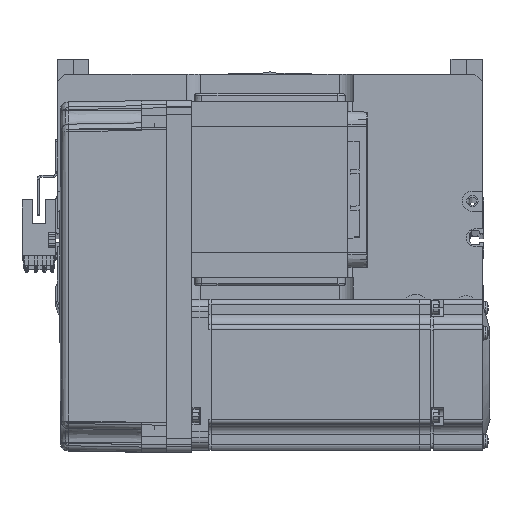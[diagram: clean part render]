
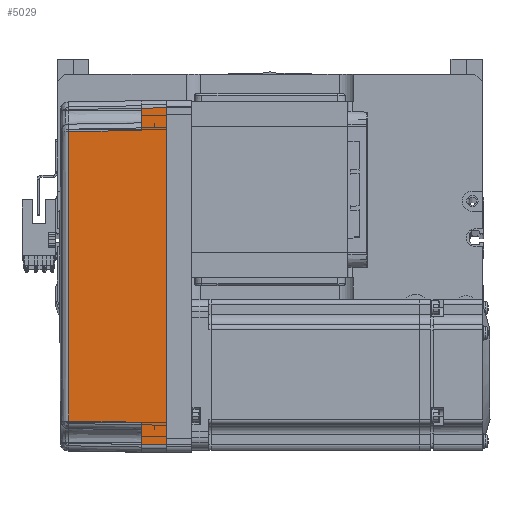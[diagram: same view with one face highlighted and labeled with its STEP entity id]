
A CAD part, top view. The second image highlights one B-rep face of the part: STEP entity #5029.
In plain terms, the highlighted planar face has unit normal (-0.018, 0, 1) as drawn and (0, -1, 0.017) by its records, which use the part's own axes.
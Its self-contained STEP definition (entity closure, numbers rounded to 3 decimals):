
#966 = CARTESIAN_POINT ( 'NONE',  ( 19.165, -35.316, 39.181 ) ) ;
#1493 = DIRECTION ( 'NONE',  ( 0., -1., 0.017 ) ) ;
#2110 = VECTOR ( 'NONE', #54460, 1000. ) ;
#5029 = ADVANCED_FACE ( 'NONE', ( #25178 ), #55340, .T. ) ;
#6319 = CARTESIAN_POINT ( 'NONE',  ( 57.495, -35.32, 38.985 ) ) ;
#6852 = CARTESIAN_POINT ( 'NONE',  ( -57.495, -35.32, 38.985 ) ) ;
#7123 = CARTESIAN_POINT ( 'NONE',  ( 57.495, -35.32, 38.985 ) ) ;
#9664 = VECTOR ( 'NONE', #43024, 1000. ) ;
#10509 = CARTESIAN_POINT ( 'NONE',  ( -66.959, -35.958, 2.39 ) ) ;
#11654 = CARTESIAN_POINT ( 'NONE',  ( 70., -35.825, 10. ) ) ;
#11664 = VECTOR ( 'NONE', #60555, 1000. ) ;
#12027 = EDGE_CURVE ( 'NONE', #37950, #52081, #21124, .T. ) ;
#13990 = EDGE_CURVE ( 'NONE', #52081, #61868, #45649, .T. ) ;
#14916 = ORIENTED_EDGE ( 'NONE', *, *, #36296, .F. ) ;
#15756 = EDGE_LOOP ( 'NONE', ( #36309, #40510, #39397, #59796, #24189, #39896, #14916, #24938 ) ) ;
#15972 = EDGE_CURVE ( 'NONE', #42292, #37950, #40616, .T. ) ;
#16689 = LINE ( 'NONE', #10509, #2110 ) ;
#17694 = DIRECTION ( 'NONE',  ( -1., 0., 0. ) ) ;
#19084 = CARTESIAN_POINT ( 'NONE',  ( 0., -36., 0. ) ) ;
#21124 = LINE ( 'NONE', #27462, #32801 ) ;
#21945 = LINE ( 'NONE', #11654, #58278 ) ;
#22221 = VERTEX_POINT ( 'NONE', #26529 ) ;
#23286 = VERTEX_POINT ( 'NONE', #61163 ) ;
#24189 = ORIENTED_EDGE ( 'NONE', *, *, #33654, .T. ) ;
#24713 = LINE ( 'NONE', #40603, #11664 ) ;
#24759 = VECTOR ( 'NONE', #40395, 1000. ) ;
#24938 = ORIENTED_EDGE ( 'NONE', *, *, #48685, .F. ) ;
#25154 = B_SPLINE_CURVE_WITH_KNOTS ( 'NONE', 3,
 ( #6319, #966, #31078, #44905 ),
 .UNSPECIFIED., .F., .F.,
 ( 4, 4 ),
 ( 0., 1. ),
 .UNSPECIFIED. ) ;
#25178 = FACE_OUTER_BOUND ( 'NONE', #15756, .T. ) ;
#25762 = DIRECTION ( 'NONE',  ( 0., -0.017, -1. ) ) ;
#26529 = CARTESIAN_POINT ( 'NONE',  ( -67., -36., 0. ) ) ;
#26599 = VERTEX_POINT ( 'NONE', #6852 ) ;
#27462 = CARTESIAN_POINT ( 'NONE',  ( 70., -35.825, 10. ) ) ;
#30797 = DIRECTION ( 'NONE',  ( -1., 0., 0. ) ) ;
#31078 = CARTESIAN_POINT ( 'NONE',  ( -19.165, -35.316, 39.181 ) ) ;
#32801 = VECTOR ( 'NONE', #17694, 1000. ) ;
#33654 = EDGE_CURVE ( 'NONE', #26599, #49979, #24713, .T. ) ;
#34509 = CARTESIAN_POINT ( 'NONE',  ( 58., -35.825, 10. ) ) ;
#36296 = EDGE_CURVE ( 'NONE', #22221, #23286, #16689, .T. ) ;
#36309 = ORIENTED_EDGE ( 'NONE', *, *, #15972, .T. ) ;
#37950 = VERTEX_POINT ( 'NONE', #39664 ) ;
#38060 = CARTESIAN_POINT ( 'NONE',  ( 67., -36., 0. ) ) ;
#38526 = LINE ( 'NONE', #19084, #63133 ) ;
#39397 = ORIENTED_EDGE ( 'NONE', *, *, #13990, .T. ) ;
#39664 = CARTESIAN_POINT ( 'NONE',  ( 66.826, -35.825, 10. ) ) ;
#39896 = ORIENTED_EDGE ( 'NONE', *, *, #61674, .T. ) ;
#40395 = DIRECTION ( 'NONE',  ( -0.017, 0.017, 1. ) ) ;
#40510 = ORIENTED_EDGE ( 'NONE', *, *, #12027, .T. ) ;
#40519 = CARTESIAN_POINT ( 'NONE',  ( 70., -36., 0. ) ) ;
#40603 = CARTESIAN_POINT ( 'NONE',  ( -57.495, -35.32, 38.985 ) ) ;
#40616 = LINE ( 'NONE', #38060, #9664 ) ;
#41849 = AXIS2_PLACEMENT_3D ( 'NONE', #40519, #1493, #25762 ) ;
#42292 = VERTEX_POINT ( 'NONE', #45178 ) ;
#43024 = DIRECTION ( 'NONE',  ( -0.017, 0.017, 1. ) ) ;
#44905 = CARTESIAN_POINT ( 'NONE',  ( -57.495, -35.32, 38.985 ) ) ;
#45178 = CARTESIAN_POINT ( 'NONE',  ( 67., -36., 0. ) ) ;
#45649 = LINE ( 'NONE', #50013, #24759 ) ;
#48685 = EDGE_CURVE ( 'NONE', #42292, #22221, #38526, .T. ) ;
#49096 = DIRECTION ( 'NONE',  ( -1., 0., 0. ) ) ;
#49408 = EDGE_CURVE ( 'NONE', #61868, #26599, #25154, .T. ) ;
#49979 = VERTEX_POINT ( 'NONE', #60928 ) ;
#50013 = CARTESIAN_POINT ( 'NONE',  ( 58., -35.825, 10. ) ) ;
#52081 = VERTEX_POINT ( 'NONE', #34509 ) ;
#54460 = DIRECTION ( 'NONE',  ( 0.017, 0.017, 1. ) ) ;
#55340 = PLANE ( 'NONE',  #41849 ) ;
#58278 = VECTOR ( 'NONE', #30797, 1000. ) ;
#59796 = ORIENTED_EDGE ( 'NONE', *, *, #49408, .T. ) ;
#60555 = DIRECTION ( 'NONE',  ( -0.017, -0.017, -1. ) ) ;
#60928 = CARTESIAN_POINT ( 'NONE',  ( -58., -35.825, 10. ) ) ;
#61163 = CARTESIAN_POINT ( 'NONE',  ( -66.826, -35.825, 10. ) ) ;
#61674 = EDGE_CURVE ( 'NONE', #49979, #23286, #21945, .T. ) ;
#61868 = VERTEX_POINT ( 'NONE', #7123 ) ;
#63133 = VECTOR ( 'NONE', #49096, 1000. ) ;
